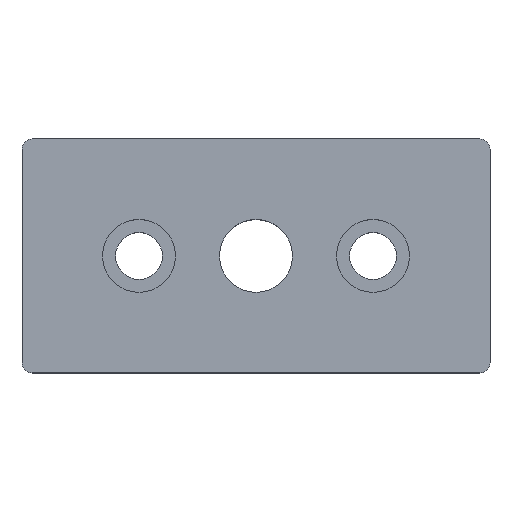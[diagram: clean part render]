
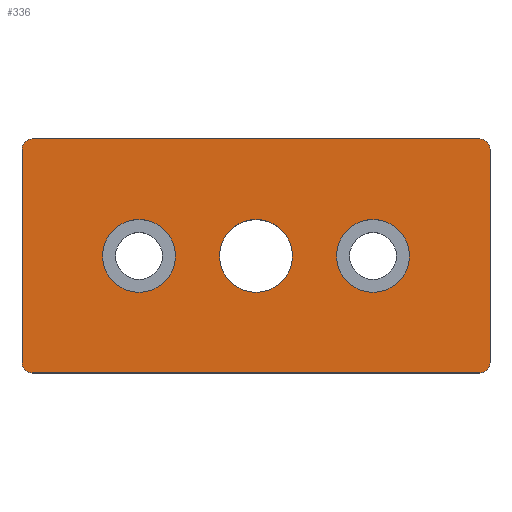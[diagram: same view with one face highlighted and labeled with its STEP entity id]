
A CAD part, top view. The second image highlights one B-rep face of the part: STEP entity #336.
In plain terms, the highlighted planar face has unit normal (0, 0, 1).
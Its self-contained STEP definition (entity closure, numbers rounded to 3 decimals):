
#11 = DIRECTION ( 'NONE',  ( -1., 0., 0. ) ) ;
#20 = PLANE ( 'NONE',  #151 ) ;
#23 = CIRCLE ( 'NONE', #85, 2. ) ;
#24 = CARTESIAN_POINT ( 'NONE',  ( -43., -22.5, 15. ) ) ;
#27 = CARTESIAN_POINT ( 'NONE',  ( -45., -22.5, 15. ) ) ;
#29 = DIRECTION ( 'NONE',  ( 0., 0., 1. ) ) ;
#43 = CIRCLE ( 'NONE', #301, 7. ) ;
#49 = DIRECTION ( 'NONE',  ( 0., 0., -1. ) ) ;
#52 = ORIENTED_EDGE ( 'NONE', *, *, #187, .T. ) ;
#54 = CARTESIAN_POINT ( 'NONE',  ( -45., 20.5, 15. ) ) ;
#61 = CARTESIAN_POINT ( 'NONE',  ( -45., 22.5, 15. ) ) ;
#63 = EDGE_CURVE ( 'NONE', #332, #194, #110, .T. ) ;
#65 = CARTESIAN_POINT ( 'NONE',  ( -45., -22.5, 15. ) ) ;
#66 = DIRECTION ( 'NONE',  ( 1., 0., 0. ) ) ;
#73 = CIRCLE ( 'NONE', #204, 2. ) ;
#77 = CARTESIAN_POINT ( 'NONE',  ( -43., 22.5, 15. ) ) ;
#81 = EDGE_CURVE ( 'NONE', #223, #240, #498, .T. ) ;
#85 = AXIS2_PLACEMENT_3D ( 'NONE', #417, #29, #263 ) ;
#88 = CARTESIAN_POINT ( 'NONE',  ( -22.5, 0., 15. ) ) ;
#99 = EDGE_CURVE ( 'NONE', #309, #309, #184, .T. ) ;
#101 = CARTESIAN_POINT ( 'NONE',  ( 45., 20.5, 15. ) ) ;
#103 = EDGE_CURVE ( 'NONE', #194, #441, #478, .T. ) ;
#110 = LINE ( 'NONE', #463, #121 ) ;
#112 = CARTESIAN_POINT ( 'NONE',  ( 29.5, 0., 15. ) ) ;
#114 = LINE ( 'NONE', #27, #437 ) ;
#120 = VERTEX_POINT ( 'NONE', #495 ) ;
#121 = VECTOR ( 'NONE', #421, 1000. ) ;
#135 = FACE_BOUND ( 'NONE', #176, .T. ) ;
#151 = AXIS2_PLACEMENT_3D ( 'NONE', #409, #49, #457 ) ;
#159 = EDGE_CURVE ( 'NONE', #230, #230, #43, .T. ) ;
#160 = EDGE_LOOP ( 'NONE', ( #355, #487, #209, #485, #251, #193, #501, #52 ) ) ;
#161 = DIRECTION ( 'NONE',  ( 0., 0., 1. ) ) ;
#172 = CARTESIAN_POINT ( 'NONE',  ( -45., -20.5, 15. ) ) ;
#176 = EDGE_LOOP ( 'NONE', ( #480 ) ) ;
#179 = DIRECTION ( 'NONE',  ( -1., 0., 0. ) ) ;
#184 = CIRCLE ( 'NONE', #369, 7. ) ;
#187 = EDGE_CURVE ( 'NONE', #240, #368, #249, .T. ) ;
#189 = EDGE_CURVE ( 'NONE', #441, #483, #422, .T. ) ;
#193 = ORIENTED_EDGE ( 'NONE', *, *, #222, .T. ) ;
#194 = VERTEX_POINT ( 'NONE', #101 ) ;
#196 = VECTOR ( 'NONE', #219, 1000. ) ;
#204 = AXIS2_PLACEMENT_3D ( 'NONE', #333, #446, #11 ) ;
#209 = ORIENTED_EDGE ( 'NONE', *, *, #63, .T. ) ;
#216 = EDGE_LOOP ( 'NONE', ( #243 ) ) ;
#219 = DIRECTION ( 'NONE',  ( 0., -1., 0. ) ) ;
#222 = EDGE_CURVE ( 'NONE', #483, #223, #23, .T. ) ;
#223 = VERTEX_POINT ( 'NONE', #54 ) ;
#224 = CARTESIAN_POINT ( 'NONE',  ( 43., 22.5, 15. ) ) ;
#230 = VERTEX_POINT ( 'NONE', #389 ) ;
#231 = CARTESIAN_POINT ( 'NONE',  ( 0., 0., 15. ) ) ;
#238 = VECTOR ( 'NONE', #339, 1000. ) ;
#240 = VERTEX_POINT ( 'NONE', #172 ) ;
#243 = ORIENTED_EDGE ( 'NONE', *, *, #159, .F. ) ;
#245 = FACE_BOUND ( 'NONE', #447, .T. ) ;
#249 = CIRCLE ( 'NONE', #315, 2. ) ;
#251 = ORIENTED_EDGE ( 'NONE', *, *, #189, .T. ) ;
#254 = DIRECTION ( 'NONE',  ( 0., 0., 1. ) ) ;
#263 = DIRECTION ( 'NONE',  ( -1., 0., 0. ) ) ;
#267 = CARTESIAN_POINT ( 'NONE',  ( -15.5, 0., 15. ) ) ;
#283 = CARTESIAN_POINT ( 'NONE',  ( 45., -20.5, 15. ) ) ;
#291 = FACE_OUTER_BOUND ( 'NONE', #160, .T. ) ;
#301 = AXIS2_PLACEMENT_3D ( 'NONE', #231, #394, #499 ) ;
#302 = DIRECTION ( 'NONE',  ( -1., 0., 0. ) ) ;
#309 = VERTEX_POINT ( 'NONE', #112 ) ;
#315 = AXIS2_PLACEMENT_3D ( 'NONE', #490, #378, #302 ) ;
#322 = EDGE_CURVE ( 'NONE', #120, #332, #73, .T. ) ;
#324 = EDGE_CURVE ( 'NONE', #385, #385, #489, .T. ) ;
#332 = VERTEX_POINT ( 'NONE', #283 ) ;
#333 = CARTESIAN_POINT ( 'NONE',  ( 43., -20.5, 15. ) ) ;
#336 = ADVANCED_FACE ( 'NONE', ( #245, #135, #486, #291 ), #20, .F. ) ;
#339 = DIRECTION ( 'NONE',  ( -1., 0., 0. ) ) ;
#346 = DIRECTION ( 'NONE',  ( 0., 0., 1. ) ) ;
#355 = ORIENTED_EDGE ( 'NONE', *, *, #425, .T. ) ;
#359 = AXIS2_PLACEMENT_3D ( 'NONE', #386, #346, #179 ) ;
#361 = ORIENTED_EDGE ( 'NONE', *, *, #324, .F. ) ;
#368 = VERTEX_POINT ( 'NONE', #24 ) ;
#369 = AXIS2_PLACEMENT_3D ( 'NONE', #469, #254, #382 ) ;
#378 = DIRECTION ( 'NONE',  ( 0., 0., 1. ) ) ;
#382 = DIRECTION ( 'NONE',  ( 1., 0., 0. ) ) ;
#385 = VERTEX_POINT ( 'NONE', #267 ) ;
#386 = CARTESIAN_POINT ( 'NONE',  ( 43., 20.5, 15. ) ) ;
#389 = CARTESIAN_POINT ( 'NONE',  ( 7., 0., 15. ) ) ;
#394 = DIRECTION ( 'NONE',  ( 0., 0., 1. ) ) ;
#409 = CARTESIAN_POINT ( 'NONE',  ( 0., 0., 15. ) ) ;
#413 = DIRECTION ( 'NONE',  ( 1., 0., 0. ) ) ;
#417 = CARTESIAN_POINT ( 'NONE',  ( -43., 20.5, 15. ) ) ;
#421 = DIRECTION ( 'NONE',  ( 0., 1., 0. ) ) ;
#422 = LINE ( 'NONE', #61, #238 ) ;
#425 = EDGE_CURVE ( 'NONE', #368, #120, #114, .T. ) ;
#437 = VECTOR ( 'NONE', #66, 1000. ) ;
#441 = VERTEX_POINT ( 'NONE', #224 ) ;
#442 = AXIS2_PLACEMENT_3D ( 'NONE', #88, #161, #413 ) ;
#446 = DIRECTION ( 'NONE',  ( 0., 0., 1. ) ) ;
#447 = EDGE_LOOP ( 'NONE', ( #361 ) ) ;
#457 = DIRECTION ( 'NONE',  ( -1., 0., 0. ) ) ;
#463 = CARTESIAN_POINT ( 'NONE',  ( 45., -22.5, 15. ) ) ;
#469 = CARTESIAN_POINT ( 'NONE',  ( 22.5, 0., 15. ) ) ;
#478 = CIRCLE ( 'NONE', #359, 2. ) ;
#480 = ORIENTED_EDGE ( 'NONE', *, *, #99, .F. ) ;
#483 = VERTEX_POINT ( 'NONE', #77 ) ;
#485 = ORIENTED_EDGE ( 'NONE', *, *, #103, .T. ) ;
#486 = FACE_BOUND ( 'NONE', #216, .T. ) ;
#487 = ORIENTED_EDGE ( 'NONE', *, *, #322, .T. ) ;
#489 = CIRCLE ( 'NONE', #442, 7. ) ;
#490 = CARTESIAN_POINT ( 'NONE',  ( -43., -20.5, 15. ) ) ;
#495 = CARTESIAN_POINT ( 'NONE',  ( 43., -22.5, 15. ) ) ;
#498 = LINE ( 'NONE', #65, #196 ) ;
#499 = DIRECTION ( 'NONE',  ( 1., 0., 0. ) ) ;
#501 = ORIENTED_EDGE ( 'NONE', *, *, #81, .T. ) ;
